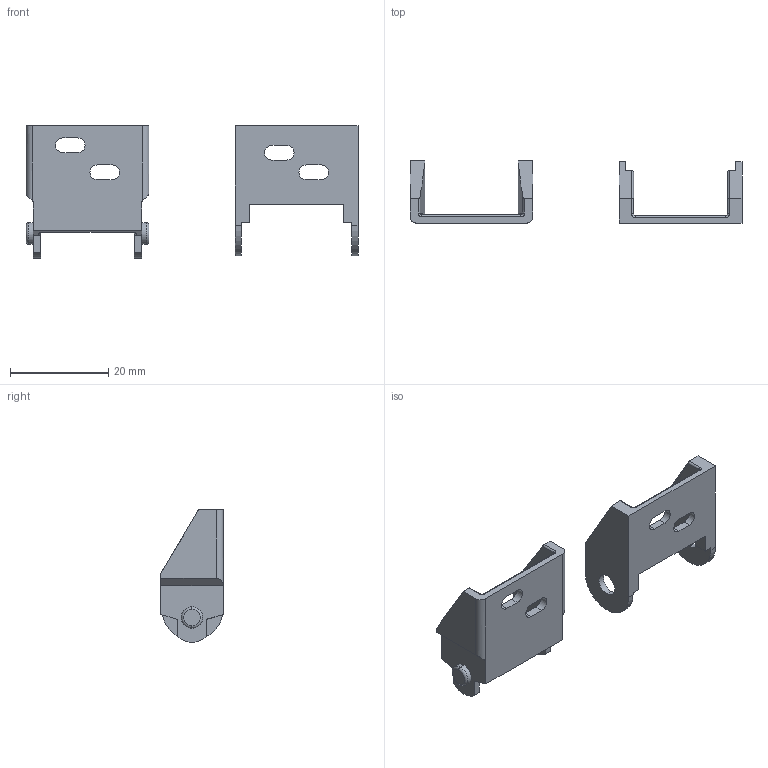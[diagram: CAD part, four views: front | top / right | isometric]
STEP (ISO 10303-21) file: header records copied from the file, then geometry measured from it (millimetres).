
FILE_DESCRIPTION (( 'STEP AP214' ), '1' );
FILE_NAME ('Cable Chain Ends.STEP', '2022-01-29T18:03:07', ( '' ), ( '' ), 'SwSTEP 2.0', 'SolidWorks 2020', '' );
FILE_SCHEMA (( 'AUTOMOTIVE_DESIGN' ));
Length unit declared in the file: millimetre
Products named in the file (1): Cable Chain Ends
Bounding box: 67.5 x 12.7 x 26.98 mm (x, y, z)
Volume: 3178.7 mm3; surface area: 4129.3 mm2
Topology: 2 solids, 2 shells, 108 faces, 286 edges, 184 vertices
Faces by surface type: plane 54, cylinder 44, torus 6, bspline 4
Entity records: 3447 total; most frequent: CARTESIAN_POINT 707, ORIENTED_EDGE 572, DIRECTION 554, EDGE_CURVE 286, LINE 188, VECTOR 188, VERTEX_POINT 184, AXIS2_PLACEMENT_3D 183
